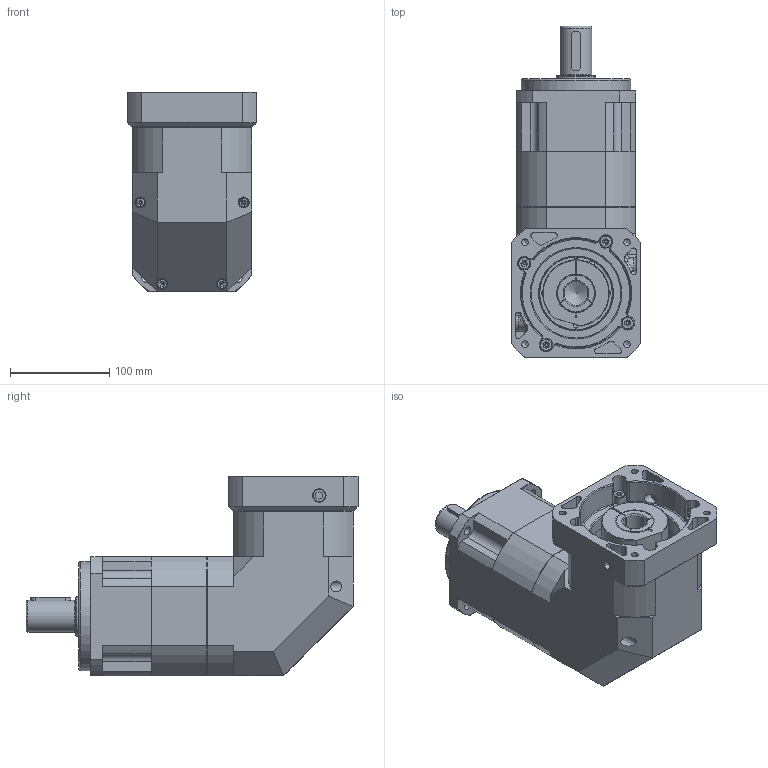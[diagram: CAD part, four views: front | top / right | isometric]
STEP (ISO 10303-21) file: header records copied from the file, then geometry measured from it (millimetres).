
FILE_DESCRIPTION((''),'2;1');
FILE_NAME('C:\Work\감속기 카다로그 도면\ATG Reducer(홈페이지)\PBL-H\STP\PBL120-H-2.stp','2014-05-27T14:52:08',('young'),(''),'Autodesk Inventor 2012','Autodesk Inventor 2012','');
FILE_SCHEMA(('AUTOMOTIVE_DESIGN { 1 0 10303 214 1 1 1 1 }'));
Length unit declared in the file: millimetre
Products named in the file (1): PBL120-H-2
Bounding box: 130 x 334 x 201 mm (x, y, z)
Volume: 3411417.1 mm3; surface area: 410634.4 mm2
Topology: 22 solids, 22 shells, 755 faces, 1913 edges, 1254 vertices
Faces by surface type: plane 392, cylinder 198, cone 104, bspline 34, torus 25, sphere 2
Full cylindrical faces by diameter (mm): 5 x8, 6 x4, 6.8 x16, 8 x10, 8.5 x1, 9 x5, 10 x4, 11 x4, 11.125 x2, 12 x1, 13 x7, 24.2 x1, 25 x1, 32 x1, 38.4 x1, 39.8 x2, 40 x2, 48 x1, 55 x3, 58 x1, 62 x2, 68 x1, 69 x1, 72 x1, 75 x2, 90 x1, 95 x1, 105 x3, 110 x1
Entity records: 30004 total; most frequent: CARTESIAN_POINT 12865, DIRECTION 3444, ORIENTED_EDGE 3378, EDGE_CURVE 1689, AXIS2_PLACEMENT_3D 1315, VERTEX_POINT 1203, EDGE_LOOP 1032, VECTOR 814
